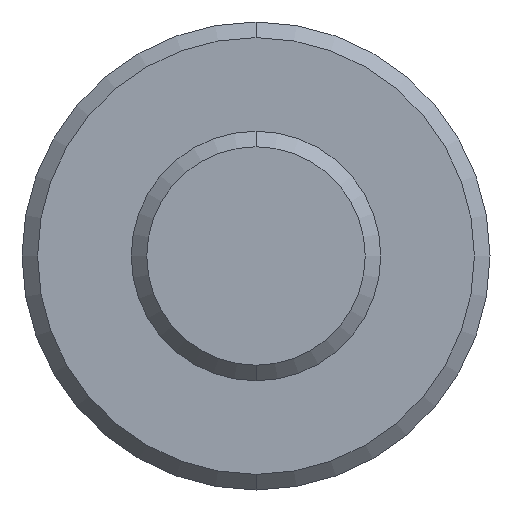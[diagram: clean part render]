
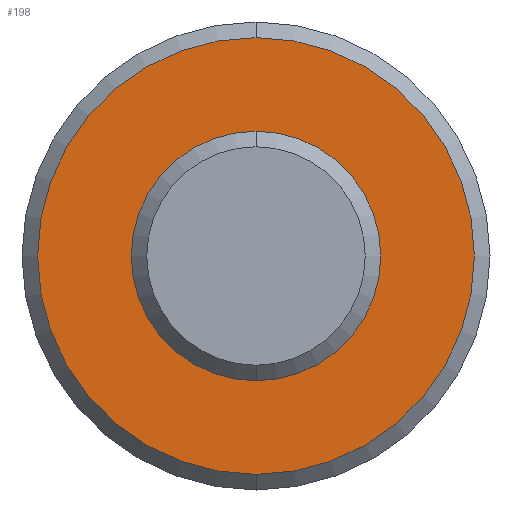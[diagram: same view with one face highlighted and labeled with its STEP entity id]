
A CAD part, front view. The second image highlights one B-rep face of the part: STEP entity #198.
In plain terms, the highlighted planar face has unit normal (0, -1, 0).
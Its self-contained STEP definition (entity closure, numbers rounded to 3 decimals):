
#20 = AXIS2_PLACEMENT_3D ( 'NONE', #324, #343, #346 ) ;
#31 = AXIS2_PLACEMENT_3D ( 'NONE', #452, #438, #431 ) ;
#50 = CIRCLE ( 'NONE', #20, 0.55 ) ;
#52 = CIRCLE ( 'NONE', #31, 1.4 ) ;
#107 = AXIS2_PLACEMENT_3D ( 'NONE', #274, #276, #313 ) ;
#109 = CIRCLE ( 'NONE', #107, 0.55 ) ;
#112 = CIRCLE ( 'NONE', #113, 1.4 ) ;
#113 = AXIS2_PLACEMENT_3D ( 'NONE', #301, #289, #319 ) ;
#198 = ADVANCED_FACE ( 'NONE', ( #1302, #1265 ), #1281, .F. ) ;
#213 = EDGE_CURVE ( 'NONE', #909, #851, #109, .T. ) ;
#219 = EDGE_CURVE ( 'NONE', #812, #806, #112, .T. ) ;
#227 = EDGE_CURVE ( 'NONE', #851, #909, #50, .T. ) ;
#252 = EDGE_CURVE ( 'NONE', #806, #812, #52, .T. ) ;
#274 = CARTESIAN_POINT ( 'NONE',  ( 0., -3.25, 0. ) ) ;
#276 = DIRECTION ( 'NONE',  ( 0., 1., 0. ) ) ;
#289 = DIRECTION ( 'NONE',  ( 0., -1., 0. ) ) ;
#301 = CARTESIAN_POINT ( 'NONE',  ( 0., -3.25, 0. ) ) ;
#313 = DIRECTION ( 'NONE',  ( 0., 0., 1. ) ) ;
#319 = DIRECTION ( 'NONE',  ( 0., 0., 1. ) ) ;
#324 = CARTESIAN_POINT ( 'NONE',  ( 0., -3.25, 0. ) ) ;
#343 = DIRECTION ( 'NONE',  ( 0., 1., 0. ) ) ;
#346 = DIRECTION ( 'NONE',  ( 0., 0., 1. ) ) ;
#431 = DIRECTION ( 'NONE',  ( 0., 0., 1. ) ) ;
#438 = DIRECTION ( 'NONE',  ( 0., -1., 0. ) ) ;
#452 = CARTESIAN_POINT ( 'NONE',  ( 0., -3.25, 0. ) ) ;
#470 = CARTESIAN_POINT ( 'NONE',  ( 0., -3.25, 1.4 ) ) ;
#484 = CARTESIAN_POINT ( 'NONE',  ( 0., -3.25, -1.4 ) ) ;
#536 = CARTESIAN_POINT ( 'NONE',  ( 0., -3.25, -0.55 ) ) ;
#549 = CARTESIAN_POINT ( 'NONE',  ( 0., -3.25, 0.55 ) ) ;
#791 = ORIENTED_EDGE ( 'NONE', *, *, #252, .T. ) ;
#799 = ORIENTED_EDGE ( 'NONE', *, *, #219, .T. ) ;
#806 = VERTEX_POINT ( 'NONE', #484 ) ;
#812 = VERTEX_POINT ( 'NONE', #470 ) ;
#821 = ORIENTED_EDGE ( 'NONE', *, *, #227, .T. ) ;
#825 = ORIENTED_EDGE ( 'NONE', *, *, #213, .T. ) ;
#851 = VERTEX_POINT ( 'NONE', #536 ) ;
#909 = VERTEX_POINT ( 'NONE', #549 ) ;
#941 = EDGE_LOOP ( 'NONE', ( #799, #791 ) ) ;
#981 = EDGE_LOOP ( 'NONE', ( #825, #821 ) ) ;
#1265 = FACE_BOUND ( 'NONE', #981, .T. ) ;
#1269 = DIRECTION ( 'NONE',  ( 0., 1., 0. ) ) ;
#1281 = PLANE ( 'NONE',  #1440 ) ;
#1283 = CARTESIAN_POINT ( 'NONE',  ( 1.5, -3.25, 0. ) ) ;
#1284 = DIRECTION ( 'NONE',  ( 0., 0., 1. ) ) ;
#1302 = FACE_OUTER_BOUND ( 'NONE', #941, .T. ) ;
#1440 = AXIS2_PLACEMENT_3D ( 'NONE', #1283, #1269, #1284 ) ;
